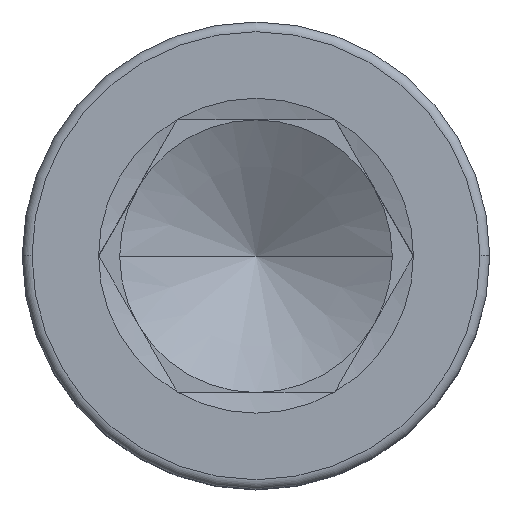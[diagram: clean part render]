
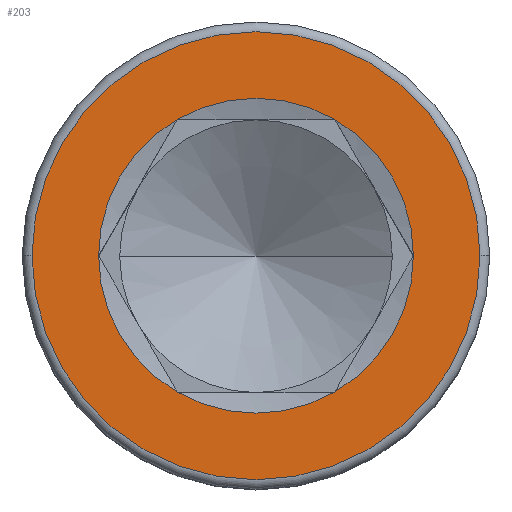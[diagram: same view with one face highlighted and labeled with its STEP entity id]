
A CAD part, top view. The second image highlights one B-rep face of the part: STEP entity #203.
In plain terms, the highlighted planar face has unit normal (0, 0, 1).
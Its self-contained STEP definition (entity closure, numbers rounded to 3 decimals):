
#15 = EDGE_CURVE ( 'NONE', #253, #328, #248, .T. ) ;
#42 = CARTESIAN_POINT ( 'NONE',  ( 11.5, 0., 16. ) ) ;
#45 = VERTEX_POINT ( 'NONE', #1102 ) ;
#82 = CARTESIAN_POINT ( 'NONE',  ( 4.041, -7., 16. ) ) ;
#90 = DIRECTION ( 'NONE',  ( 0., 0., 1. ) ) ;
#96 = AXIS2_PLACEMENT_3D ( 'NONE', #535, #1722, #1918 ) ;
#108 = CARTESIAN_POINT ( 'NONE',  ( 0., 0., 16. ) ) ;
#131 = ORIENTED_EDGE ( 'NONE', *, *, #15, .T. ) ;
#203 = ADVANCED_FACE ( 'NONE', ( #468, #1971 ), #1070, .T. ) ;
#213 = DIRECTION ( 'NONE',  ( 0., 0., 1. ) ) ;
#215 = AXIS2_PLACEMENT_3D ( 'NONE', #660, #1114, #1725 ) ;
#248 = CIRCLE ( 'NONE', #215, 11.5 ) ;
#253 = VERTEX_POINT ( 'NONE', #1690 ) ;
#284 = DIRECTION ( 'NONE',  ( 1., 0., 0. ) ) ;
#295 = CIRCLE ( 'NONE', #1123, 8.083 ) ;
#328 = VERTEX_POINT ( 'NONE', #42 ) ;
#357 = ORIENTED_EDGE ( 'NONE', *, *, #1914, .F. ) ;
#358 = AXIS2_PLACEMENT_3D ( 'NONE', #1291, #545, #988 ) ;
#393 = VERTEX_POINT ( 'NONE', #82 ) ;
#426 = CIRCLE ( 'NONE', #358, 8.083 ) ;
#456 = EDGE_LOOP ( 'NONE', ( #357, #789, #1790, #1775, #1169, #1917 ) ) ;
#468 = FACE_OUTER_BOUND ( 'NONE', #1569, .T. ) ;
#476 = VERTEX_POINT ( 'NONE', #1130 ) ;
#493 = ORIENTED_EDGE ( 'NONE', *, *, #1844, .T. ) ;
#535 = CARTESIAN_POINT ( 'NONE',  ( 0., 0., 16. ) ) ;
#545 = DIRECTION ( 'NONE',  ( 0., 0., 1. ) ) ;
#660 = CARTESIAN_POINT ( 'NONE',  ( 0., 0., 16. ) ) ;
#667 = DIRECTION ( 'NONE',  ( 0., 0., 1. ) ) ;
#697 = DIRECTION ( 'NONE',  ( 1., 0., 0. ) ) ;
#701 = DIRECTION ( 'NONE',  ( 0., 0., 1. ) ) ;
#732 = VERTEX_POINT ( 'NONE', #795 ) ;
#789 = ORIENTED_EDGE ( 'NONE', *, *, #1367, .F. ) ;
#795 = CARTESIAN_POINT ( 'NONE',  ( 8.083, 0., 16. ) ) ;
#967 = CIRCLE ( 'NONE', #996, 8.083 ) ;
#988 = DIRECTION ( 'NONE',  ( 1., 0., 0. ) ) ;
#996 = AXIS2_PLACEMENT_3D ( 'NONE', #1170, #90, #1488 ) ;
#997 = DIRECTION ( 'NONE',  ( 1., 0., 0. ) ) ;
#1059 = AXIS2_PLACEMENT_3D ( 'NONE', #1431, #701, #1304 ) ;
#1070 = PLANE ( 'NONE',  #1273 ) ;
#1072 = CARTESIAN_POINT ( 'NONE',  ( -4.041, -7., 16. ) ) ;
#1102 = CARTESIAN_POINT ( 'NONE',  ( -4.041, 7., 16. ) ) ;
#1114 = DIRECTION ( 'NONE',  ( 0., 0., 1. ) ) ;
#1123 = AXIS2_PLACEMENT_3D ( 'NONE', #1124, #1750, #997 ) ;
#1124 = CARTESIAN_POINT ( 'NONE',  ( 0., 0., 16. ) ) ;
#1130 = CARTESIAN_POINT ( 'NONE',  ( -8.083, 0., 16. ) ) ;
#1169 = ORIENTED_EDGE ( 'NONE', *, *, #1870, .F. ) ;
#1170 = CARTESIAN_POINT ( 'NONE',  ( 0., 0., 16. ) ) ;
#1187 = CIRCLE ( 'NONE', #1574, 8.083 ) ;
#1192 = VERTEX_POINT ( 'NONE', #1698 ) ;
#1222 = CIRCLE ( 'NONE', #96, 11.5 ) ;
#1273 = AXIS2_PLACEMENT_3D ( 'NONE', #108, #1654, #284 ) ;
#1291 = CARTESIAN_POINT ( 'NONE',  ( 0., 0., 16. ) ) ;
#1304 = DIRECTION ( 'NONE',  ( 1., 0., 0. ) ) ;
#1367 = EDGE_CURVE ( 'NONE', #393, #732, #967, .T. ) ;
#1431 = CARTESIAN_POINT ( 'NONE',  ( 0., 0., 16. ) ) ;
#1461 = DIRECTION ( 'NONE',  ( 1., 0., 0. ) ) ;
#1488 = DIRECTION ( 'NONE',  ( 1., 0., 0. ) ) ;
#1553 = EDGE_CURVE ( 'NONE', #1691, #393, #1187, .T. ) ;
#1569 = EDGE_LOOP ( 'NONE', ( #493, #131 ) ) ;
#1574 = AXIS2_PLACEMENT_3D ( 'NONE', #1593, #213, #1461 ) ;
#1593 = CARTESIAN_POINT ( 'NONE',  ( 0., 0., 16. ) ) ;
#1620 = CARTESIAN_POINT ( 'NONE',  ( 0., 0., 16. ) ) ;
#1653 = EDGE_CURVE ( 'NONE', #476, #1691, #1856, .T. ) ;
#1654 = DIRECTION ( 'NONE',  ( 0., 0., 1. ) ) ;
#1690 = CARTESIAN_POINT ( 'NONE',  ( -11.5, 0., 16. ) ) ;
#1691 = VERTEX_POINT ( 'NONE', #1072 ) ;
#1698 = CARTESIAN_POINT ( 'NONE',  ( 4.041, 7., 16. ) ) ;
#1722 = DIRECTION ( 'NONE',  ( 0., 0., 1. ) ) ;
#1725 = DIRECTION ( 'NONE',  ( 1., 0., 0. ) ) ;
#1732 = AXIS2_PLACEMENT_3D ( 'NONE', #1620, #667, #697 ) ;
#1750 = DIRECTION ( 'NONE',  ( 0., 0., 1. ) ) ;
#1775 = ORIENTED_EDGE ( 'NONE', *, *, #1653, .F. ) ;
#1790 = ORIENTED_EDGE ( 'NONE', *, *, #1553, .F. ) ;
#1844 = EDGE_CURVE ( 'NONE', #328, #253, #1222, .T. ) ;
#1856 = CIRCLE ( 'NONE', #1059, 8.083 ) ;
#1859 = EDGE_CURVE ( 'NONE', #1192, #45, #295, .T. ) ;
#1870 = EDGE_CURVE ( 'NONE', #45, #476, #426, .T. ) ;
#1914 = EDGE_CURVE ( 'NONE', #732, #1192, #1962, .T. ) ;
#1917 = ORIENTED_EDGE ( 'NONE', *, *, #1859, .F. ) ;
#1918 = DIRECTION ( 'NONE',  ( 1., 0., 0. ) ) ;
#1962 = CIRCLE ( 'NONE', #1732, 8.083 ) ;
#1971 = FACE_BOUND ( 'NONE', #456, .T. ) ;
